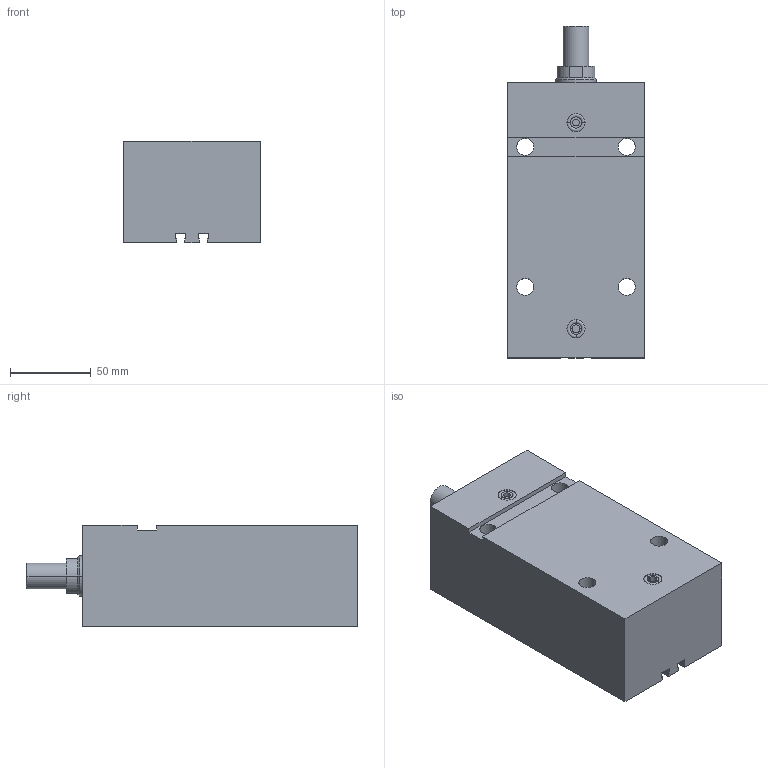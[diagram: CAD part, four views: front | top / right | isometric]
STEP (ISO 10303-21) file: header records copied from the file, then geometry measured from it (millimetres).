
FILE_DESCRIPTION (( 'STEP AP203' ), '1' );
FILE_NAME ('GERMA_Blockzylinder_704-040-100-A.STEP', '2016-07-23T10:18:50', ( '' ), ( '' ), 'SwSTEP 2.0', 'SolidWorks 2015', '' );
FILE_SCHEMA (( 'CONFIG_CONTROL_DESIGN' ));
Length unit declared in the file: millimetre
Products named in the file (3): Kolben_MT 70x-040_Kolben_MT DU.40-Hub100-AG; GERMA_Blockzylinder_704-040-100-A; GH-700-040_GH-704-040-100
Assembly tree (2 placements, depth 2):
  GERMA_Blockzylinder_704-040-100-A
    GH-700-040_GH-704-040-100
    Kolben_MT 70x-040_Kolben_MT DU.40-Hub100-AG
Bounding box: 85 x 206 x 63 mm (x, y, z)
Volume: 812464.5 mm3; surface area: 111187 mm2
Topology: 2 solids, 2 shells, 100 faces, 232 edges, 145 vertices
Faces by surface type: plane 43, cylinder 41, cone 12, torus 4
Entity records: 3142 total; most frequent: DIRECTION 535, CARTESIAN_POINT 478, ORIENTED_EDGE 456, EDGE_CURVE 228, AXIS2_PLACEMENT_3D 202, VERTEX_POINT 145, LINE 131, VECTOR 131
